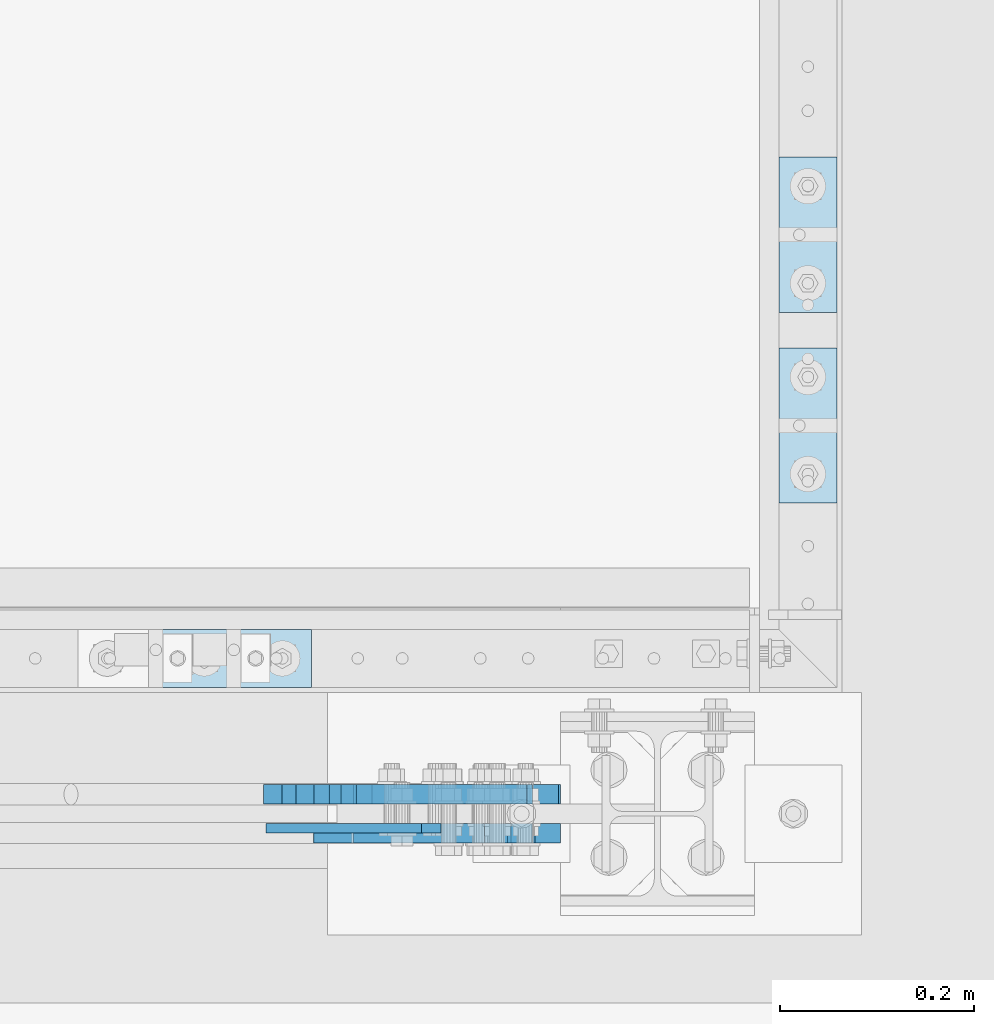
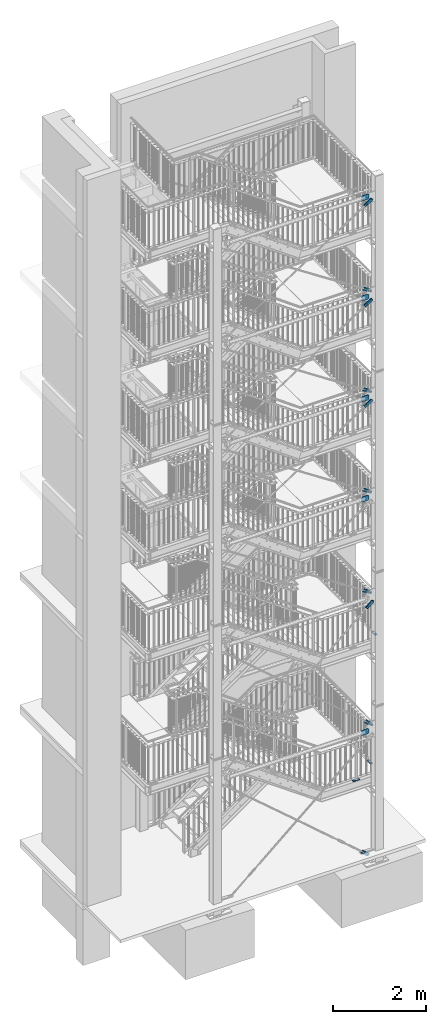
# One storey, part 195 of 825: 18 plates, 46 openings.
"""IFC2X3 building model written with IfcOpenShell, lengths in millimetres."""

import ifcopenshell
import ifcopenshell.guid

model = None  # the IFC model being written
_history = None  # IfcOwnerHistory: only IFC2X3 demands one
_inside = {}  # id of a spatial element -> (the spatial element, [elements in it])
_under = {}  # id of a project, library or spatial element -> (it, [spatial elements below it])
_declared = {}  # id of a project -> (the project, [libraries it declares])
_typed = {}  # id of a type object -> (the type object, [elements of that type])
_made_of = {}  # id of a material, layer set ... -> (it, [elements and type objects made of it])


def new_model(schema):
    """Start an empty IFC model of exactly this schema.

    Asked for "IFC4X3", IfcOpenShell would pick the latest addendum, in which some entities
    have other attributes; the version numbers below select the first issue.
    IFC2X3 requires an IfcOwnerHistory on every rooted entity: one is made here for all.
    """
    global model, _history
    if schema == "IFC4X3":
        model = ifcopenshell.file(schema_version=(4, 3, 0, 0))
    else:
        model = ifcopenshell.file(schema=schema)
    _inside.clear()
    _under.clear()
    _declared.clear()
    _typed.clear()
    _made_of.clear()
    _history = None
    if model.schema == "IFC2X3":
        org = make("IfcOrganization", Name="unknown")
        user = make(
            "IfcPersonAndOrganization",
            ThePerson=make("IfcPerson", FamilyName="unknown"),
            TheOrganization=org,
        )
        app = make(
            "IfcApplication",
            ApplicationDeveloper=org,
            Version="unknown",
            ApplicationFullName="unknown",
            ApplicationIdentifier="unknown",
        )
        _history = make(
            "IfcOwnerHistory",
            OwningUser=user,
            OwningApplication=app,
            ChangeAction="ADDED",
            CreationDate=0,
        )
    return model


def make(cls, **values):
    """One entity of the class cls with the attributes given. An attribute that is None is left unset."""
    return model.create_entity(
        cls, **{name: value for name, value in values.items() if value is not None}
    )


def entity(cls, *values):
    """Any entity or typed value of the class cls, its attributes in the order of the schema. None: left unset."""
    e = model.create_entity(cls)
    for i, value in enumerate(values):
        if value is not None:
            e[i] = value
    return e


def rooted(cls, **values):
    """An entity with a GlobalId (a new one), such as an element, a storey or a relation."""
    return make(cls, GlobalId=ifcopenshell.guid.new(), OwnerHistory=_history, **values)


def si_unit(unit_type, name, prefix=None):
    """IfcSIUnit, for example si_unit("LENGTHUNIT", "METRE", prefix="MILLI")."""
    return make("IfcSIUnit", UnitType=unit_type, Prefix=prefix, Name=name)


def converted_unit(unit_type, name, factor, base, dimensions=None, offset=None):
    """IfcConversionBasedUnit, such as the inch: factor (a typed value) times the base unit."""
    return make(
        "IfcConversionBasedUnit"
        if offset is None
        else "IfcConversionBasedUnitWithOffset",
        ConversionOffset=offset,
        Dimensions=None
        if dimensions is None
        else entity("IfcDimensionalExponents", *dimensions),
        UnitType=unit_type,
        Name=name,
        ConversionFactor=make(
            "IfcMeasureWithUnit", ValueComponent=factor, UnitComponent=base
        ),
    )


def assignment(units):
    """IfcUnitAssignment: the units of a project."""
    return None if units is None else make("IfcUnitAssignment", Units=units)


def point(xyz):
    """IfcCartesianPoint."""
    return None if xyz is None else make("IfcCartesianPoint", Coordinates=xyz)


def direction(xyz):
    """IfcDirection."""
    return None if xyz is None else make("IfcDirection", DirectionRatios=xyz)


def frame(location, z_axis=None, x_axis=None):
    """IfcAxis2Placement3D, a coordinate frame: its origin and axes. An axis left out is left unset."""
    return make(
        "IfcAxis2Placement3D",
        Location=point(location),
        Axis=direction(z_axis),
        RefDirection=direction(x_axis),
    )


def frame_2d(location, x_axis=None):
    """IfcAxis2Placement2D, a coordinate frame in the plane: its origin and x axis."""
    return make(
        "IfcAxis2Placement2D", Location=point(location), RefDirection=direction(x_axis)
    )


def origin():
    """The frame at (0, 0, 0) with its axes left unset."""
    return frame((0.0, 0.0, 0.0))


def origin_with_axes():
    """The frame at (0, 0, 0) with the z axis (0, 0, 1) and the x axis (1, 0, 0) written out."""
    return frame((0.0, 0.0, 0.0), z_axis=(0.0, 0.0, 1.0), x_axis=(1.0, 0.0, 0.0))


def place(relative_to, where):
    """IfcLocalPlacement: puts the frame where relative to a parent placement (None: the world)."""
    return make(
        "IfcLocalPlacement", PlacementRelTo=relative_to, RelativePlacement=where
    )


def context(
    kind, dimensions, precision=None, world=None, true_north=None, identifier=None
):
    """IfcGeometricRepresentationContext, for example the 3D "Model" context."""
    return make(
        "IfcGeometricRepresentationContext",
        ContextIdentifier=identifier,
        ContextType=kind,
        CoordinateSpaceDimension=dimensions,
        Precision=precision,
        WorldCoordinateSystem=world,
        TrueNorth=true_north,
    )


def project(units=None, contexts=None):
    """IfcProject with its units and contexts."""
    return rooted(
        "IfcProject",
        Name="project",
        RepresentationContexts=contexts,
        UnitsInContext=assignment(units),
    )


def spatial(cls, under=None, at=None, **own):
    """A site, building, storey or space (cls), placed at a placement, below another one or the project."""
    s = rooted(cls, ObjectPlacement=at, **own)
    if under is not None:
        _under.setdefault(under.id(), (under, []))[1].append(s)
    return s


def polyline(points):
    """IfcPolyline through the points."""
    return make("IfcPolyline", Points=[point(p) for p in points])


def circle_curve(where, radius):
    """IfcCircle in the frame where."""
    return make("IfcCircle", Position=where, Radius=radius)


def line_curve(start, along, magnitude):
    """IfcLine from a point along a vector."""
    return make(
        "IfcLine",
        Pnt=point(start),
        Dir=make("IfcVector", Orientation=direction(along), Magnitude=magnitude),
    )


def trimmed(basis, trim1, trim2, sense, master):
    """IfcTrimmedCurve: the piece of a basis curve between two trims."""
    return make(
        "IfcTrimmedCurve",
        BasisCurve=basis,
        Trim1=trim1,
        Trim2=trim2,
        SenseAgreement=sense,
        MasterRepresentation=master,
    )


def segment(curve, same_sense, transition):
    """IfcCompositeCurveSegment."""
    return make(
        "IfcCompositeCurveSegment",
        Transition=transition,
        SameSense=same_sense,
        ParentCurve=curve,
    )


def composite_curve(segments, self_intersect=None):
    """IfcCompositeCurve: segments joined end to end."""
    return make("IfcCompositeCurve", Segments=segments, SelfIntersect=self_intersect)


def profile(cls, at=None, kind="AREA", **sizes):
    """A parametric profile (cls). Its sizes go by their IFC names, for example OverallWidth=200.0."""
    return make(cls, ProfileType=kind, Position=at, **sizes)


def circle(**sizes):
    """IfcCircleProfileDef."""
    return profile("IfcCircleProfileDef", **sizes)


def outline(outer, holes=None, kind="AREA"):
    """IfcArbitraryClosedProfileDef: a profile drawn as a closed curve; with holes, ...WithVoids."""
    if holes is None:
        return make("IfcArbitraryClosedProfileDef", ProfileType=kind, OuterCurve=outer)
    return make(
        "IfcArbitraryProfileDefWithVoids",
        ProfileType=kind,
        OuterCurve=outer,
        InnerCurves=holes,
    )


def extrude(swept, where, along, depth):
    """IfcExtrudedAreaSolid: the profile swept, set in the frame where, extruded along a direction by depth."""
    return make(
        "IfcExtrudedAreaSolid",
        SweptArea=swept,
        Position=where,
        ExtrudedDirection=direction(along),
        Depth=depth,
    )


def shape(context_of_items, identifier, shape_type, items):
    """IfcShapeRepresentation: the items that make up one representation, for example the "Body"."""
    return make(
        "IfcShapeRepresentation",
        ContextOfItems=context_of_items,
        RepresentationIdentifier=identifier,
        RepresentationType=shape_type,
        Items=items,
    )


def material(Name=None, Category=None):
    """IfcMaterial."""
    return make("IfcMaterial", Name=Name, Category=Category)


def layer(
    of_material, thickness, ventilated=None, Name=None, Category=None, Priority=None
):
    """IfcMaterialLayer: one layer of a wall or slab, of a material (None: an air gap)."""
    return make(
        "IfcMaterialLayer",
        Material=of_material,
        LayerThickness=thickness,
        IsVentilated=ventilated,
        Name=Name,
        Category=Category,
        Priority=Priority,
    )


def layer_set(layers, Name=None):
    """IfcMaterialLayerSet."""
    return make("IfcMaterialLayerSet", MaterialLayers=layers, LayerSetName=Name)


def made_of(thing, what):
    """Note that an element or type object is made of a material, layer set ...; save() writes the relation."""
    if what is not None:
        _made_of.setdefault(what.id(), (what, []))[1].append(thing)
    return thing


def element(
    cls,
    number,
    at=None,
    inside=None,
    cuts=None,
    type_object=None,
    material=None,
    context=None,
    identifier="Body",
    shape_type=None,
    held_by="IfcProductDefinitionShape",
    body=None,
    shapes=None,
    **own,
):
    """One element of the class cls, such as IfcWall. Its Tag is "e" and its number.

    at: its placement. inside: the storey or other place that contains it. cuts: it is an
    opening in that element (IfcRelVoidsElement). A single representation is given by context,
    identifier, shape_type and body (its items); several are given by shapes. held_by: the class
    of the entity that holds the representations. save() writes the other relations.
    """
    e = rooted(cls, Tag="e%d" % number, ObjectPlacement=at, **own)
    if body is not None:
        shapes = [shape(context, identifier, shape_type, body)]
    if shapes is not None:
        e.Representation = make(held_by, Representations=shapes)
    if inside is not None:
        _inside.setdefault(inside.id(), (inside, []))[1].append(e)
    if cuts is not None:
        rooted(
            "IfcRelVoidsElement", RelatingBuildingElement=cuts, RelatedOpeningElement=e
        )
    if type_object is not None:
        _typed.setdefault(type_object.id(), (type_object, []))[1].append(e)
    return made_of(e, material)


def aggregate(whole, parts):
    """IfcRelAggregates: a whole, such as a stair, and the parts it consists of."""
    return rooted("IfcRelAggregates", RelatingObject=whole, RelatedObjects=parts)


def save(model, path):
    """Write the relations noted so far, then the file.

    IfcRelAggregates (storeys below a building ...), IfcRelContainedInSpatialStructure (elements
    in a storey), IfcRelDefinesByType, IfcRelAssociatesMaterial and IfcRelDeclares: one each for
    every whole, place, type object, material and project.
    """
    for whole, parts in _under.values():
        aggregate(whole, parts)
    for where, things in _inside.values():
        rooted(
            "IfcRelContainedInSpatialStructure",
            RelatedElements=things,
            RelatingStructure=where,
        )
    for kind, things in _typed.values():
        rooted("IfcRelDefinesByType", RelatedObjects=things, RelatingType=kind)
    for what, things in _made_of.values():
        rooted("IfcRelAssociatesMaterial", RelatedObjects=things, RelatingMaterial=what)
    for by, libraries in _declared.values():
        rooted("IfcRelDeclares", RelatingContext=by, RelatedDefinitions=libraries)
    model.write(path)


model = new_model("IFC2X3")

# Units and contexts
model_context = context("Model", 3, precision=1e-09, world=origin_with_axes())
ifc_project = project(units=[si_unit("LENGTHUNIT", "METRE", prefix="MILLI"), si_unit("AREAUNIT", "SQUARE_METRE"), si_unit("VOLUMEUNIT", "CUBIC_METRE"), converted_unit("PLANEANGLEUNIT", "DEGREE", entity("IfcPlaneAngleMeasure", 0.01745329), si_unit("PLANEANGLEUNIT", "RADIAN"), dimensions=[0, 0, 0, 0, 0, 0, 0])], contexts=[model_context])

# Site, building, storey
site_placement = place(None, origin_with_axes())
site = spatial("IfcSite", under=ifc_project, at=site_placement, Name="Cnopf'sche Kinderklinik", CompositionType="ELEMENT")
building_placement = place(site_placement, origin_with_axes())
building = spatial("IfcBuilding", under=site, at=building_placement, Name="Struktur 1", CompositionType="ELEMENT")
storey_placement = place(building_placement, origin_with_axes())
storey = spatial("IfcBuildingStorey", under=building, at=storey_placement, Name="Default Storey", CompositionType="ELEMENT", Elevation=0.0)

# Plate, openings
ifc_material = material(Name="S235JR")
ifc_layer_1 = layer(ifc_material, 20.0)
ifc_layer_set_1 = layer_set([ifc_layer_1], Name="S235JR")
plate_1_placement = place(None, frame((8586.91061946, 4356.736971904, 6728.115001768), z_axis=(0.0, -1.0, 0.0), x_axis=(0.654679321, 0.0, -0.755906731)))
plate_1 = element("IfcPlate", 1, at=plate_1_placement, inside=storey, material=ifc_layer_set_1, Name="-", ObjectType="-", context=model_context, shape_type="SweptSolid", body=[
    extrude(outline(polyline([(0.0, 0.0), (29.0, 0.0), (29.0, 210.0), (9.0, 230.0), (-31.0, 230.0), (-51.0, 210.0), (-51.0, 0.0), (-22.0, 0.0), (-22.0, 80.0), (0.0, 80.0), (0.0, 0.0)])), origin_with_axes(), (0.0, 0.0, 1.0), 20.0),
])
opening_1_placement = place(plate_1_placement, frame((-11.0, 170.0, -0.5), z_axis=(0.0, 0.0, 1.0), x_axis=(0.0, -1.0, 0.0)))
element("IfcOpeningElement", 2, at=opening_1_placement, cuts=plate_1, ObjectType="Opening", context=model_context, shape_type="SweptSolid", body=[
    extrude(circle(Radius=9.001, at=frame_2d((30.0, 0.0), x_axis=(1.0, 0.0))), origin(), (0.0, 0.0, 1.0), 21.0),
])
opening_2_placement = place(plate_1_placement, frame((-11.0, 170.0, -0.5), z_axis=(0.0, 0.0, 1.0), x_axis=(0.0, -1.0, 0.0)))
element("IfcOpeningElement", 3, at=opening_2_placement, cuts=plate_1, ObjectType="Opening", context=model_context, shape_type="SweptSolid", body=[
    extrude(circle(Radius=9.001, at=frame_2d((-30.0, 0.0), x_axis=(1.0, 0.0))), origin(), (0.0, 0.0, 1.0), 21.0),
])

plate_2_placement = place(None, frame((8494.057714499, 4396.736971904, 395.314271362), z_axis=(0.0, 1.0, 0.0), x_axis=(0.652408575, 0.0, 0.757867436)))
plate_2 = element("IfcPlate", 4, at=plate_2_placement, inside=storey, material=ifc_layer_set_1, Name="-", ObjectType="-", context=model_context, shape_type="SweptSolid", body=[
    extrude(outline(polyline([(0.0, 0.0), (29.0, 0.0), (29.0, 210.0), (9.0, 230.0), (-31.0, 230.0), (-51.0, 210.0), (-51.0, 0.0), (-22.0, 0.0), (-22.0, 80.0), (0.0, 80.0), (0.0, 0.0)])), origin_with_axes(), (0.0, 0.0, -1.0), 20.0),
])
opening_3_placement = place(plate_2_placement, frame((-11.000000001, 149.001, 0.5), z_axis=(0.0, 0.0, 1.0), x_axis=(1.0, 0.0, 0.0)))
element("IfcOpeningElement", 5, at=opening_3_placement, cuts=plate_2, ObjectType="Opening", context=model_context, shape_type="SweptSolid", body=[
    extrude(circle(Radius=9.001, at=frame_2d((0.0, -9.001), x_axis=(1.0, 0.0))), origin(), (0.0, 0.0, -1.0), 21.0),
])
opening_4_placement = place(plate_2_placement, frame((-11.000000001, 209.001, 0.5), z_axis=(0.0, 0.0, 1.0), x_axis=(1.0, 0.0, 0.0)))
element("IfcOpeningElement", 6, at=opening_4_placement, cuts=plate_2, ObjectType="Opening", context=model_context, shape_type="SweptSolid", body=[
    extrude(circle(Radius=9.001, at=frame_2d((0.0, -9.001), x_axis=(1.0, 0.0))), origin(), (0.0, 0.0, -1.0), 21.0),
])

plate_3_placement = place(None, frame((8587.050661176, 4396.736971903, 3768.76370292), z_axis=(0.0, 1.0, 0.0), x_axis=(0.654679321, 0.0, 0.755906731)))
plate_3 = element("IfcPlate", 7, at=plate_3_placement, inside=storey, material=ifc_layer_set_1, Name="-", ObjectType="-", context=model_context, shape_type="SweptSolid", body=[
    extrude(outline(polyline([(0.0, 0.0), (29.0, 0.0), (29.0, 210.0), (9.0, 230.0), (-31.0, 230.0), (-51.0, 210.0), (-51.0, 0.0), (-22.0, 0.0), (-22.0, 80.0), (0.0, 80.0), (0.0, 0.0)])), origin_with_axes(), (0.0, 0.0, -1.0), 20.0),
])
opening_5_placement = place(plate_3_placement, frame((-11.0, 149.001, 0.5), z_axis=(0.0, 0.0, 1.0), x_axis=(1.0, 0.0, 0.0)))
element("IfcOpeningElement", 8, at=opening_5_placement, cuts=plate_3, ObjectType="Opening", context=model_context, shape_type="SweptSolid", body=[
    extrude(circle(Radius=9.001, at=frame_2d((0.0, -9.001), x_axis=(1.0, 0.0))), origin(), (0.0, 0.0, -1.0), 21.0),
])
opening_6_placement = place(plate_3_placement, frame((-11.0, 209.001, 0.5), z_axis=(0.0, 0.0, 1.0), x_axis=(1.0, 0.0, 0.0)))
element("IfcOpeningElement", 9, at=opening_6_placement, cuts=plate_3, ObjectType="Opening", context=model_context, shape_type="SweptSolid", body=[
    extrude(circle(Radius=9.001, at=frame_2d((0.0, -9.001), x_axis=(1.0, 0.0))), origin(), (0.0, 0.0, -1.0), 21.0),
])

plate_4_placement = place(None, frame((8540.784171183, 4396.736971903, 7212.084413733), z_axis=(0.0, 1.0, 0.0), x_axis=(0.548720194, 0.0, 0.83600607)))
plate_4 = element("IfcPlate", 10, at=plate_4_placement, inside=storey, material=ifc_layer_set_1, Name="-", ObjectType="-", context=model_context, shape_type="SweptSolid", body=[
    extrude(outline(polyline([(0.0, 0.0), (29.0, 0.0), (29.0, 210.0), (9.0, 230.0), (-31.0, 230.0), (-51.0, 210.0), (-51.0, 0.0), (-22.0, 0.0), (-22.0, 80.0), (0.0, 80.0), (0.0, 0.0)])), origin_with_axes(), (0.0, 0.0, -1.0), 20.0),
])
opening_7_placement = place(plate_4_placement, frame((-11.0, 149.001, 0.5), z_axis=(0.0, 0.0, 1.0), x_axis=(1.0, 0.0, 0.0)))
element("IfcOpeningElement", 11, at=opening_7_placement, cuts=plate_4, ObjectType="Opening", context=model_context, shape_type="SweptSolid", body=[
    extrude(circle(Radius=9.001, at=frame_2d((0.0, -9.001), x_axis=(1.0, 0.0))), origin(), (0.0, 0.0, -1.0), 21.0),
])
opening_8_placement = place(plate_4_placement, frame((-10.999999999, 209.001, 0.5), z_axis=(0.0, 0.0, 1.0), x_axis=(1.0, 0.0, 0.0)))
element("IfcOpeningElement", 12, at=opening_8_placement, cuts=plate_4, ObjectType="Opening", context=model_context, shape_type="SweptSolid", body=[
    extrude(circle(Radius=9.001, at=frame_2d((0.0, -9.001), x_axis=(1.0, 0.0))), origin(), (0.0, 0.0, -1.0), 21.0),
])

plate_5_placement = place(None, frame((8540.615686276, 4396.736971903, 9843.845194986), z_axis=(0.0, 1.0, 0.0), x_axis=(0.547980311, 0.0, 0.836491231)))
plate_5 = element("IfcPlate", 13, at=plate_5_placement, inside=storey, material=ifc_layer_set_1, Name="-", ObjectType="-", context=model_context, shape_type="SweptSolid", body=[
    extrude(outline(polyline([(0.0, 0.0), (29.0, 0.0), (29.0, 210.0), (9.0, 230.0), (-31.0, 230.0), (-51.0, 210.0), (-51.0, 0.0), (-22.0, 0.0), (-22.0, 80.0), (0.0, 80.0), (0.0, 0.0)])), origin_with_axes(), (0.0, 0.0, -1.0), 20.0),
])
opening_9_placement = place(plate_5_placement, frame((-11.000000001, 149.001, 0.5), z_axis=(0.0, 0.0, 1.0), x_axis=(1.0, 0.0, 0.0)))
element("IfcOpeningElement", 14, at=opening_9_placement, cuts=plate_5, ObjectType="Opening", context=model_context, shape_type="SweptSolid", body=[
    extrude(circle(Radius=9.001, at=frame_2d((0.0, -9.001), x_axis=(1.0, 0.0))), origin(), (0.0, 0.0, -1.0), 21.0),
])
opening_10_placement = place(plate_5_placement, frame((-11.000000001, 209.001, 0.5), z_axis=(0.0, 0.0, 1.0), x_axis=(1.0, 0.0, 0.0)))
element("IfcOpeningElement", 15, at=opening_10_placement, cuts=plate_5, ObjectType="Opening", context=model_context, shape_type="SweptSolid", body=[
    extrude(circle(Radius=9.001, at=frame_2d((0.0, -9.001), x_axis=(1.0, 0.0))), origin(), (0.0, 0.0, -1.0), 21.0),
])

plate_6_placement = place(None, frame((8540.456629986, 4356.736971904, 12017.11491779), z_axis=(0.0, -1.0, 0.0), x_axis=(0.547991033, 0.0, -0.836484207)))
plate_6 = element("IfcPlate", 16, at=plate_6_placement, inside=storey, material=ifc_layer_set_1, Name="-", ObjectType="-", context=model_context, shape_type="SweptSolid", body=[
    extrude(outline(polyline([(0.0, 0.0), (29.0, 0.0), (29.0, 210.0), (9.0, 230.0), (-31.0, 230.0), (-51.0, 210.0), (-51.0, 0.0), (-22.0, 0.0), (-22.0, 80.0), (0.0, 80.0), (0.0, 0.0)])), origin_with_axes(), (0.0, 0.0, 1.0), 20.0),
])
opening_11_placement = place(plate_6_placement, frame((-11.0, 170.0, -0.5), z_axis=(0.0, 0.0, 1.0), x_axis=(0.0, -1.0, 0.0)))
element("IfcOpeningElement", 17, at=opening_11_placement, cuts=plate_6, ObjectType="Opening", context=model_context, shape_type="SweptSolid", body=[
    extrude(circle(Radius=9.001, at=frame_2d((30.0, 0.0), x_axis=(1.0, 0.0))), origin(), (0.0, 0.0, 1.0), 21.0),
])
opening_12_placement = place(plate_6_placement, frame((-11.0, 170.0, -0.5), z_axis=(0.0, 0.0, 1.0), x_axis=(0.0, -1.0, 0.0)))
element("IfcOpeningElement", 18, at=opening_12_placement, cuts=plate_6, ObjectType="Opening", context=model_context, shape_type="SweptSolid", body=[
    extrude(circle(Radius=9.001, at=frame_2d((-30.0, 0.0), x_axis=(1.0, 0.0))), origin(), (0.0, 0.0, 1.0), 21.0),
])

plate_7_placement = place(None, frame((8540.90280273, 4396.736971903, 12471.254814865), z_axis=(0.0, 1.0, 0.0), x_axis=(0.549157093, 0.0, 0.835719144)))
plate_7 = element("IfcPlate", 19, at=plate_7_placement, inside=storey, material=ifc_layer_set_1, Name="-", ObjectType="-", context=model_context, shape_type="SweptSolid", body=[
    extrude(outline(polyline([(0.0, 0.0), (29.0, 0.0), (29.0, 210.0), (9.0, 230.0), (-31.0, 230.0), (-51.0, 210.0), (-51.0, 0.0), (-22.0, 0.0), (-22.0, 80.0), (0.0, 80.0), (0.0, 0.0)])), origin_with_axes(), (0.0, 0.0, -1.0), 20.0),
])
opening_13_placement = place(plate_7_placement, frame((-11.0, 149.001, 0.5), z_axis=(0.0, 0.0, 1.0), x_axis=(1.0, 0.0, 0.0)))
element("IfcOpeningElement", 20, at=opening_13_placement, cuts=plate_7, ObjectType="Opening", context=model_context, shape_type="SweptSolid", body=[
    extrude(circle(Radius=9.001, at=frame_2d((0.0, -9.001), x_axis=(1.0, 0.0))), origin(), (0.0, 0.0, -1.0), 21.0),
])
opening_14_placement = place(plate_7_placement, frame((-11.0, 209.001, 0.5), z_axis=(0.0, 0.0, 1.0), x_axis=(1.0, 0.0, 0.0)))
element("IfcOpeningElement", 21, at=opening_14_placement, cuts=plate_7, ObjectType="Opening", context=model_context, shape_type="SweptSolid", body=[
    extrude(circle(Radius=9.001, at=frame_2d((0.0, -9.001), x_axis=(1.0, 0.0))), origin(), (0.0, 0.0, -1.0), 21.0),
])

plate_8_placement = place(None, frame((8540.77296569, 4356.736971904, 14651.659861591), z_axis=(0.0, -1.0, 0.0), x_axis=(0.549157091, 0.0, -0.835719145)))
plate_8 = element("IfcPlate", 22, at=plate_8_placement, inside=storey, material=ifc_layer_set_1, Name="-", ObjectType="-", context=model_context, shape_type="SweptSolid", body=[
    extrude(outline(polyline([(0.0, 0.0), (29.0, 0.0), (29.0, 210.0), (9.0, 230.0), (-31.0, 230.0), (-51.0, 210.0), (-51.0, 0.0), (-22.0, 0.0), (-22.0, 80.0), (0.0, 80.0), (0.0, 0.0)])), origin_with_axes(), (0.0, 0.0, 1.0), 20.0),
])
opening_15_placement = place(plate_8_placement, frame((-11.0, 170.0, -0.5), z_axis=(0.0, 0.0, 1.0), x_axis=(0.0, -1.0, 0.0)))
element("IfcOpeningElement", 23, at=opening_15_placement, cuts=plate_8, ObjectType="Opening", context=model_context, shape_type="SweptSolid", body=[
    extrude(circle(Radius=9.001, at=frame_2d((30.0, 0.0), x_axis=(1.0, 0.0))), origin(), (0.0, 0.0, 1.0), 21.0),
])
opening_16_placement = place(plate_8_placement, frame((-11.0, 170.0, -0.5), z_axis=(0.0, 0.0, 1.0), x_axis=(0.0, -1.0, 0.0)))
element("IfcOpeningElement", 24, at=opening_16_placement, cuts=plate_8, ObjectType="Opening", context=model_context, shape_type="SweptSolid", body=[
    extrude(circle(Radius=9.001, at=frame_2d((-30.0, 0.0), x_axis=(1.0, 0.0))), origin(), (0.0, 0.0, 1.0), 21.0),
])

plate_9_placement = place(None, frame((8540.309054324, 4396.736971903, 15105.40145562), z_axis=(0.0, 1.0, 0.0), x_axis=(0.546968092, 0.0, 0.837153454)))
plate_9 = element("IfcPlate", 25, at=plate_9_placement, inside=storey, material=ifc_layer_set_1, Name="-", ObjectType="-", context=model_context, shape_type="SweptSolid", body=[
    extrude(outline(polyline([(0.0, 0.0), (29.0, 0.0), (29.0, 210.0), (9.0, 230.0), (-31.0, 230.0), (-51.0, 210.0), (-51.0, 0.0), (-22.0, 0.0), (-22.0, 80.0), (0.0, 80.0), (0.0, 0.0)])), origin_with_axes(), (0.0, 0.0, -1.0), 20.0),
])
opening_17_placement = place(plate_9_placement, frame((-11.0, 149.001, 0.5), z_axis=(0.0, 0.0, 1.0), x_axis=(1.0, 0.0, 0.0)))
element("IfcOpeningElement", 26, at=opening_17_placement, cuts=plate_9, ObjectType="Opening", context=model_context, shape_type="SweptSolid", body=[
    extrude(circle(Radius=9.001, at=frame_2d((0.0, -9.001), x_axis=(1.0, 0.0))), origin(), (0.0, 0.0, -1.0), 21.0),
])
opening_18_placement = place(plate_9_placement, frame((-11.0, 209.001, 0.5), z_axis=(0.0, 0.0, 1.0), x_axis=(1.0, 0.0, 0.0)))
element("IfcOpeningElement", 27, at=opening_18_placement, cuts=plate_9, ObjectType="Opening", context=model_context, shape_type="SweptSolid", body=[
    extrude(circle(Radius=9.001, at=frame_2d((0.0, -9.001), x_axis=(1.0, 0.0))), origin(), (0.0, 0.0, -1.0), 21.0),
])

plate_10_placement = place(None, frame((8540.17951408, 4356.736971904, 17272.513899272), z_axis=(0.0, -1.0, 0.0), x_axis=(0.546968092, 0.0, -0.837153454)))
plate_10 = element("IfcPlate", 28, at=plate_10_placement, inside=storey, material=ifc_layer_set_1, Name="-", ObjectType="-", context=model_context, shape_type="SweptSolid", body=[
    extrude(outline(polyline([(0.0, 0.0), (29.0, 0.0), (29.0, 210.0), (9.0, 230.0), (-31.0, 230.0), (-51.0, 210.0), (-51.0, 0.0), (-22.0, 0.0), (-22.0, 80.0), (0.0, 80.0), (0.0, 0.0)])), origin_with_axes(), (0.0, 0.0, 1.0), 20.0),
])
opening_19_placement = place(plate_10_placement, frame((-11.0, 170.0, -0.5), z_axis=(0.0, 0.0, 1.0), x_axis=(0.0, -1.0, 0.0)))
element("IfcOpeningElement", 29, at=opening_19_placement, cuts=plate_10, ObjectType="Opening", context=model_context, shape_type="SweptSolid", body=[
    extrude(circle(Radius=9.001, at=frame_2d((30.0, 0.0), x_axis=(1.0, 0.0))), origin(), (0.0, 0.0, 1.0), 21.0),
])
opening_20_placement = place(plate_10_placement, frame((-11.0, 170.0, -0.5), z_axis=(0.0, 0.0, 1.0), x_axis=(0.0, -1.0, 0.0)))
element("IfcOpeningElement", 30, at=opening_20_placement, cuts=plate_10, ObjectType="Opening", context=model_context, shape_type="SweptSolid", body=[
    extrude(circle(Radius=9.001, at=frame_2d((-30.0, 0.0), x_axis=(1.0, 0.0))), origin(), (0.0, 0.0, 1.0), 21.0),
])

ifc_layer_2 = layer(ifc_material, 10.0)
ifc_layer_set_2 = layer_set([ifc_layer_2], Name="S235JR")
plate_11_placement = place(None, frame((8553.463402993, 4356.736971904, 3511.999996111), z_axis=(0.0, -1.0, 0.0), x_axis=(1.0, 0.0, 0.0)))
plate_11 = element("IfcPlate", 31, at=plate_11_placement, inside=storey, material=ifc_layer_set_2, Name="-", ObjectType="-", context=model_context, shape_type="SweptSolid", body=[
    extrude(outline(polyline([(-90.0, -70.0), (90.0, -70.0), (90.0, 70.0), (-90.0, 70.0), (-90.0, -70.0)])), origin_with_axes(), (0.0, 0.0, 1.0), 10.0),
])
opening_21_placement = place(plate_11_placement, frame((0.0, 0.0, -0.01), z_axis=(0.0, 0.0, 1.0), x_axis=(1.0, 0.0, 0.0)))
element("IfcOpeningElement", 32, at=opening_21_placement, cuts=plate_11, ObjectType="Opening", context=model_context, shape_type="SweptSolid", body=[
    extrude(outline(polyline([(90.0, -70.0), (90.0, -50.0), (70.0, -70.0), (90.0, -70.0)])), origin(), (0.0, 0.0, 1.0), 10.02),
])
opening_22_placement = place(plate_11_placement, frame((0.0, 0.0, -0.01), z_axis=(0.0, 0.0, 1.0), x_axis=(1.0, 0.0, 0.0)))
element("IfcOpeningElement", 33, at=opening_22_placement, cuts=plate_11, ObjectType="Opening", context=model_context, shape_type="SweptSolid", body=[
    extrude(outline(polyline([(90.0, 70.0), (70.0, 70.0), (90.0, 50.0), (90.0, 70.0)])), origin(), (0.0, 0.0, 1.0), 10.02),
])
opening_23_placement = place(plate_11_placement, frame((50.0, 0.0, -0.5), z_axis=(0.0, 0.0, 1.0), x_axis=(1.0, 0.0, 0.0)))
element("IfcOpeningElement", 34, at=opening_23_placement, cuts=plate_11, ObjectType="Opening", context=model_context, shape_type="SweptSolid", body=[
    extrude(circle(Radius=9.001, at=frame_2d((0.0, 30.0), x_axis=(1.0, 0.0))), origin(), (0.0, 0.0, 1.0), 11.0),
])
opening_24_placement = place(plate_11_placement, frame((50.0, 0.0, -0.5), z_axis=(0.0, 0.0, 1.0), x_axis=(1.0, 0.0, 0.0)))
element("IfcOpeningElement", 35, at=opening_24_placement, cuts=plate_11, ObjectType="Opening", context=model_context, shape_type="SweptSolid", body=[
    extrude(circle(Radius=9.001, at=frame_2d((0.0, -30.0), x_axis=(1.0, 0.0))), origin(), (0.0, 0.0, 1.0), 11.0),
])

plate_12_placement = place(None, frame((8553.463402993, 4356.736971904, 9616.999996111), z_axis=(0.0, -1.0, 0.0), x_axis=(1.0, 0.0, 0.0)))
plate_12 = element("IfcPlate", 36, at=plate_12_placement, inside=storey, material=ifc_layer_set_2, Name="-", ObjectType="-", context=model_context, shape_type="SweptSolid", body=[
    extrude(outline(polyline([(-90.0, -70.0), (90.0, -70.0), (90.0, 70.0), (-90.0, 70.0), (-90.0, -70.0)])), origin_with_axes(), (0.0, 0.0, 1.0), 10.0),
])
opening_25_placement = place(plate_12_placement, frame((0.0, 0.0, -0.01), z_axis=(0.0, 0.0, 1.0), x_axis=(1.0, 0.0, 0.0)))
element("IfcOpeningElement", 37, at=opening_25_placement, cuts=plate_12, ObjectType="Opening", context=model_context, shape_type="SweptSolid", body=[
    extrude(outline(polyline([(90.0, -70.0), (90.0, -50.0), (70.0, -70.0), (90.0, -70.0)])), origin(), (0.0, 0.0, 1.0), 10.02),
])
opening_26_placement = place(plate_12_placement, frame((0.0, 0.0, -0.01), z_axis=(0.0, 0.0, 1.0), x_axis=(1.0, 0.0, 0.0)))
element("IfcOpeningElement", 38, at=opening_26_placement, cuts=plate_12, ObjectType="Opening", context=model_context, shape_type="SweptSolid", body=[
    extrude(outline(polyline([(90.0, 70.0), (70.0, 70.0), (90.0, 50.0), (90.0, 70.0)])), origin(), (0.0, 0.0, 1.0), 10.02),
])
opening_27_placement = place(plate_12_placement, frame((50.0, 0.0, -0.5), z_axis=(0.0, 0.0, 1.0), x_axis=(1.0, 0.0, 0.0)))
element("IfcOpeningElement", 39, at=opening_27_placement, cuts=plate_12, ObjectType="Opening", context=model_context, shape_type="SweptSolid", body=[
    extrude(circle(Radius=9.001, at=frame_2d((0.0, 30.0), x_axis=(1.0, 0.0))), origin(), (0.0, 0.0, 1.0), 11.0),
])
opening_28_placement = place(plate_12_placement, frame((50.0, 0.0, -0.5), z_axis=(0.0, 0.0, 1.0), x_axis=(1.0, 0.0, 0.0)))
element("IfcOpeningElement", 40, at=opening_28_placement, cuts=plate_12, ObjectType="Opening", context=model_context, shape_type="SweptSolid", body=[
    extrude(circle(Radius=9.001, at=frame_2d((0.0, -30.0), x_axis=(1.0, 0.0))), origin(), (0.0, 0.0, 1.0), 11.0),
])

plate_13_placement = place(None, frame((8553.463402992, 4356.736971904, 12243.999996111), z_axis=(0.0, -1.0, 0.0), x_axis=(1.0, 0.0, 0.0)))
plate_13 = element("IfcPlate", 41, at=plate_13_placement, inside=storey, material=ifc_layer_set_2, Name="-", ObjectType="-", context=model_context, shape_type="SweptSolid", body=[
    extrude(outline(polyline([(-90.0, -70.0), (90.0, -70.0), (90.0, 70.0), (-90.0, 70.0), (-90.0, -70.0)])), origin_with_axes(), (0.0, 0.0, 1.0), 10.0),
])
opening_29_placement = place(plate_13_placement, frame((0.0, 0.0, -0.01), z_axis=(0.0, 0.0, 1.0), x_axis=(1.0, 0.0, 0.0)))
element("IfcOpeningElement", 42, at=opening_29_placement, cuts=plate_13, ObjectType="Opening", context=model_context, shape_type="SweptSolid", body=[
    extrude(outline(polyline([(90.0, -70.0), (90.0, -50.0), (70.0, -70.0), (90.0, -70.0)])), origin(), (0.0, 0.0, 1.0), 10.02),
])
opening_30_placement = place(plate_13_placement, frame((0.0, 0.0, -0.01), z_axis=(0.0, 0.0, 1.0), x_axis=(1.0, 0.0, 0.0)))
element("IfcOpeningElement", 43, at=opening_30_placement, cuts=plate_13, ObjectType="Opening", context=model_context, shape_type="SweptSolid", body=[
    extrude(outline(polyline([(90.0, 70.0), (70.0, 70.0), (90.0, 50.0), (90.0, 70.0)])), origin(), (0.0, 0.0, 1.0), 10.02),
])
opening_31_placement = place(plate_13_placement, frame((50.0, 0.0, -0.5), z_axis=(0.0, 0.0, 1.0), x_axis=(1.0, 0.0, 0.0)))
element("IfcOpeningElement", 44, at=opening_31_placement, cuts=plate_13, ObjectType="Opening", context=model_context, shape_type="SweptSolid", body=[
    extrude(circle(Radius=9.001, at=frame_2d((0.0, 30.0), x_axis=(1.0, 0.0))), origin(), (0.0, 0.0, 1.0), 11.0),
])
opening_32_placement = place(plate_13_placement, frame((50.0, 0.0, -0.5), z_axis=(0.0, 0.0, 1.0), x_axis=(1.0, 0.0, 0.0)))
element("IfcOpeningElement", 45, at=opening_32_placement, cuts=plate_13, ObjectType="Opening", context=model_context, shape_type="SweptSolid", body=[
    extrude(circle(Radius=9.001, at=frame_2d((0.0, -30.0), x_axis=(1.0, 0.0))), origin(), (0.0, 0.0, 1.0), 11.0),
])

plate_14_placement = place(None, frame((8553.463402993, 4356.736971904, 14878.999996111), z_axis=(0.0, -1.0, 0.0), x_axis=(1.0, 0.0, 0.0)))
plate_14 = element("IfcPlate", 46, at=plate_14_placement, inside=storey, material=ifc_layer_set_2, Name="-", ObjectType="-", context=model_context, shape_type="SweptSolid", body=[
    extrude(outline(polyline([(-90.0, -70.0), (90.0, -70.0), (90.0, 70.0), (-90.0, 70.0), (-90.0, -70.0)])), origin_with_axes(), (0.0, 0.0, 1.0), 10.0),
])
opening_33_placement = place(plate_14_placement, frame((0.0, 0.0, -0.01), z_axis=(0.0, 0.0, 1.0), x_axis=(1.0, 0.0, 0.0)))
element("IfcOpeningElement", 47, at=opening_33_placement, cuts=plate_14, ObjectType="Opening", context=model_context, shape_type="SweptSolid", body=[
    extrude(outline(polyline([(90.0, -70.0), (90.0, -50.0), (70.0, -70.0), (90.0, -70.0)])), origin(), (0.0, 0.0, 1.0), 10.02),
])
opening_34_placement = place(plate_14_placement, frame((0.0, 0.0, -0.01), z_axis=(0.0, 0.0, 1.0), x_axis=(1.0, 0.0, 0.0)))
element("IfcOpeningElement", 48, at=opening_34_placement, cuts=plate_14, ObjectType="Opening", context=model_context, shape_type="SweptSolid", body=[
    extrude(outline(polyline([(90.0, 70.0), (70.0, 70.0), (90.0, 50.0), (90.0, 70.0)])), origin(), (0.0, 0.0, 1.0), 10.02),
])
opening_35_placement = place(plate_14_placement, frame((50.0, 0.0, -0.5), z_axis=(0.0, 0.0, 1.0), x_axis=(1.0, 0.0, 0.0)))
element("IfcOpeningElement", 49, at=opening_35_placement, cuts=plate_14, ObjectType="Opening", context=model_context, shape_type="SweptSolid", body=[
    extrude(circle(Radius=9.001, at=frame_2d((0.0, 30.0), x_axis=(1.0, 0.0))), origin(), (0.0, 0.0, 1.0), 11.0),
])
opening_36_placement = place(plate_14_placement, frame((50.0, 0.0, -0.5), z_axis=(0.0, 0.0, 1.0), x_axis=(1.0, 0.0, 0.0)))
element("IfcOpeningElement", 50, at=opening_36_placement, cuts=plate_14, ObjectType="Opening", context=model_context, shape_type="SweptSolid", body=[
    extrude(circle(Radius=9.001, at=frame_2d((0.0, -30.0), x_axis=(1.0, 0.0))), origin(), (0.0, 0.0, 1.0), 11.0),
])

plate_15_placement = place(None, frame((8553.463402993, 4356.736971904, 17498.999996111), z_axis=(0.0, -1.0, 0.0), x_axis=(1.0, 0.0, 0.0)))
plate_15 = element("IfcPlate", 51, at=plate_15_placement, inside=storey, material=ifc_layer_set_2, Name="-", ObjectType="-", context=model_context, shape_type="SweptSolid", body=[
    extrude(outline(polyline([(-90.0, -70.0), (90.0, -70.0), (90.0, 70.0), (-90.0, 70.0), (-90.0, -70.0)])), origin_with_axes(), (0.0, 0.0, 1.0), 10.0),
])
opening_37_placement = place(plate_15_placement, frame((0.0, 0.0, -0.01), z_axis=(0.0, 0.0, 1.0), x_axis=(1.0, 0.0, 0.0)))
element("IfcOpeningElement", 52, at=opening_37_placement, cuts=plate_15, ObjectType="Opening", context=model_context, shape_type="SweptSolid", body=[
    extrude(outline(polyline([(90.0, -70.0), (90.0, -50.0), (70.0, -70.0), (90.0, -70.0)])), origin(), (0.0, 0.0, 1.0), 10.02),
])
opening_38_placement = place(plate_15_placement, frame((0.0, 0.0, -0.01), z_axis=(0.0, 0.0, 1.0), x_axis=(1.0, 0.0, 0.0)))
element("IfcOpeningElement", 53, at=opening_38_placement, cuts=plate_15, ObjectType="Opening", context=model_context, shape_type="SweptSolid", body=[
    extrude(outline(polyline([(90.0, 70.0), (70.0, 70.0), (90.0, 50.0), (90.0, 70.0)])), origin(), (0.0, 0.0, 1.0), 10.02),
])
opening_39_placement = place(plate_15_placement, frame((50.0, 0.0, -0.5), z_axis=(0.0, 0.0, 1.0), x_axis=(1.0, 0.0, 0.0)))
element("IfcOpeningElement", 54, at=opening_39_placement, cuts=plate_15, ObjectType="Opening", context=model_context, shape_type="SweptSolid", body=[
    extrude(circle(Radius=9.001, at=frame_2d((0.0, 30.0), x_axis=(1.0, 0.0))), origin(), (0.0, 0.0, 1.0), 11.0),
])
opening_40_placement = place(plate_15_placement, frame((50.0, 0.0, -0.5), z_axis=(0.0, 0.0, 1.0), x_axis=(1.0, 0.0, 0.0)))
element("IfcOpeningElement", 55, at=opening_40_placement, cuts=plate_15, ObjectType="Opening", context=model_context, shape_type="SweptSolid", body=[
    extrude(circle(Radius=9.001, at=frame_2d((0.0, -30.0), x_axis=(1.0, 0.0))), origin(), (0.0, 0.0, 1.0), 11.0),
])

plate_16_placement = place(None, frame((9051.713402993, 4883.274795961, 2181.0526312), z_axis=(0.0, 0.0, 1.0), x_axis=(0.0, 1.0, 0.0)))
plate_16 = element("IfcPlate", 56, at=plate_16_placement, inside=storey, material=ifc_layer_set_1, Name="Plate#506", ObjectType="Plate#506", context=model_context, shape_type="SweptSolid", body=[
    extrude(outline(polyline([(0.0, 0.0), (160.0, 0.0), (160.0, 60.0), (0.0, 60.0), (0.0, 0.0)])), origin_with_axes(), (0.0, 0.0, 1.0), 20.0),
])
opening_41_placement = place(plate_16_placement, frame((38.0, 37.001, 20.5), z_axis=(0.0, 0.0, 1.0), x_axis=(-1.0, 0.0, 0.0)))
element("IfcOpeningElement", 57, at=opening_41_placement, cuts=plate_16, ObjectType="Opening", context=model_context, shape_type="SweptSolid", body=[
    extrude(outline(composite_curve([segment(trimmed(line_curve((0.0, 0.0), (1.0, 0.0), 16.0), [point((0.0, 0.0))], [point((16.0, 0.0))], True, "CARTESIAN"), True, "CONTINUOUS"), segment(trimmed(circle_curve(frame_2d((16.0, 7.001), x_axis=(1.0, 0.0)), 7.001), [point((16.0, 0.0))], [point((16.0, 14.002))], True, "CARTESIAN"), True, "CONTINUOUS"), segment(trimmed(line_curve((16.0, 14.002), (-1.0, 0.0), 16.0), [point((16.0, 14.002))], [point((0.0, 14.002))], True, "CARTESIAN"), True, "CONTINUOUS"), segment(trimmed(circle_curve(frame_2d((0.0, 7.001), x_axis=(1.0, 0.0)), 7.001), [point((0.0, 14.002))], [point((0.0, 0.0))], True, "CARTESIAN"), True, "CONTINUOUS")], self_intersect=False)), origin(), (0.0, 0.0, -1.0), 21.0),
])
opening_42_placement = place(plate_16_placement, frame((138.0, 37.001, 20.5), z_axis=(0.0, 0.0, 1.0), x_axis=(-1.0, 0.0, 0.0)))
element("IfcOpeningElement", 58, at=opening_42_placement, cuts=plate_16, ObjectType="Opening", context=model_context, shape_type="SweptSolid", body=[
    extrude(outline(composite_curve([segment(trimmed(line_curve((0.0, 0.0), (1.0, 0.0), 16.0), [point((0.0, 0.0))], [point((16.0, 0.0))], True, "CARTESIAN"), True, "CONTINUOUS"), segment(trimmed(circle_curve(frame_2d((16.0, 7.001), x_axis=(1.0, 0.0)), 7.001), [point((16.0, 0.0))], [point((16.0, 14.002))], True, "CARTESIAN"), True, "CONTINUOUS"), segment(trimmed(line_curve((16.0, 14.002), (-1.0, 0.0), 16.0), [point((16.0, 14.002))], [point((0.0, 14.002))], True, "CARTESIAN"), True, "CONTINUOUS"), segment(trimmed(circle_curve(frame_2d((0.0, 7.001), x_axis=(1.0, 0.0)), 7.001), [point((0.0, 14.002))], [point((0.0, 0.0))], True, "CARTESIAN"), True, "CONTINUOUS")], self_intersect=False)), origin(), (0.0, 0.0, -1.0), 21.0),
])

plate_17_placement = place(None, frame((8350.174109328, 4496.736971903, 2181.0526312), z_axis=(0.0, 0.0, 1.0), x_axis=(1.0, 0.0, 0.0)))
plate_17 = element("IfcPlate", 59, at=plate_17_placement, inside=storey, material=ifc_layer_set_1, Name="Plate#507", ObjectType="Plate#507", context=model_context, shape_type="SweptSolid", body=[
    extrude(outline(polyline([(0.0, 0.0), (160.0, 0.0), (160.0, 60.0), (0.0, 60.0), (0.0, 0.0)])), origin_with_axes(), (0.0, 0.0, 1.0), 20.0),
])
opening_43_placement = place(plate_17_placement, frame((38.0, 37.001, 20.5), z_axis=(0.0, 0.0, 1.0), x_axis=(-1.0, 0.0, 0.0)))
element("IfcOpeningElement", 60, at=opening_43_placement, cuts=plate_17, ObjectType="Opening", context=model_context, shape_type="SweptSolid", body=[
    extrude(outline(composite_curve([segment(trimmed(line_curve((0.0, 0.0), (1.0, 0.0), 16.0), [point((0.0, 0.0))], [point((16.0, 0.0))], True, "CARTESIAN"), True, "CONTINUOUS"), segment(trimmed(circle_curve(frame_2d((16.0, 7.001), x_axis=(1.0, 0.0)), 7.001), [point((16.0, 0.0))], [point((16.0, 14.002))], True, "CARTESIAN"), True, "CONTINUOUS"), segment(trimmed(line_curve((16.0, 14.002), (-1.0, 0.0), 16.0), [point((16.0, 14.002))], [point((0.0, 14.002))], True, "CARTESIAN"), True, "CONTINUOUS"), segment(trimmed(circle_curve(frame_2d((0.0, 7.001), x_axis=(1.0, 0.0)), 7.001), [point((0.0, 14.002))], [point((0.0, 0.0))], True, "CARTESIAN"), True, "CONTINUOUS")], self_intersect=False)), origin(), (0.0, 0.0, -1.0), 21.0),
])
opening_44_placement = place(plate_17_placement, frame((138.0, 37.001, 20.5), z_axis=(0.0, 0.0, 1.0), x_axis=(-1.0, 0.0, 0.0)))
element("IfcOpeningElement", 61, at=opening_44_placement, cuts=plate_17, ObjectType="Opening", context=model_context, shape_type="SweptSolid", body=[
    extrude(outline(composite_curve([segment(trimmed(line_curve((0.0, 0.0), (1.0, 0.0), 16.0), [point((0.0, 0.0))], [point((16.0, 0.0))], True, "CARTESIAN"), True, "CONTINUOUS"), segment(trimmed(circle_curve(frame_2d((16.0, 7.001), x_axis=(1.0, 0.0)), 7.001), [point((16.0, 0.0))], [point((16.0, 14.002))], True, "CARTESIAN"), True, "CONTINUOUS"), segment(trimmed(line_curve((16.0, 14.002), (-1.0, 0.0), 16.0), [point((16.0, 14.002))], [point((0.0, 14.002))], True, "CARTESIAN"), True, "CONTINUOUS"), segment(trimmed(circle_curve(frame_2d((0.0, 7.001), x_axis=(1.0, 0.0)), 7.001), [point((0.0, 14.002))], [point((0.0, 0.0))], True, "CARTESIAN"), True, "CONTINUOUS")], self_intersect=False)), origin(), (0.0, 0.0, -1.0), 21.0),
])

plate_18_placement = place(None, frame((9051.713402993, 4686.735971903, 5674.8947367), z_axis=(0.0, 0.0, 1.0), x_axis=(0.0, 1.0, 0.0)))
plate_18 = element("IfcPlate", 62, at=plate_18_placement, inside=storey, material=ifc_layer_set_1, Name="Plate#507", ObjectType="Plate#507", context=model_context, shape_type="SweptSolid", body=[
    extrude(outline(polyline([(0.0, 0.0), (160.0, 0.0), (160.0, 60.0), (0.0, 60.0), (0.0, 0.0)])), origin_with_axes(), (0.0, 0.0, 1.0), 20.0),
])
opening_45_placement = place(plate_18_placement, frame((38.0, 37.001, 20.5), z_axis=(0.0, 0.0, 1.0), x_axis=(-1.0, 0.0, 0.0)))
element("IfcOpeningElement", 63, at=opening_45_placement, cuts=plate_18, ObjectType="Opening", context=model_context, shape_type="SweptSolid", body=[
    extrude(outline(composite_curve([segment(trimmed(line_curve((0.0, 0.0), (1.0, 0.0), 16.0), [point((0.0, 0.0))], [point((16.0, 0.0))], True, "CARTESIAN"), True, "CONTINUOUS"), segment(trimmed(circle_curve(frame_2d((16.0, 7.001), x_axis=(1.0, 0.0)), 7.001), [point((16.0, 0.0))], [point((16.0, 14.002))], True, "CARTESIAN"), True, "CONTINUOUS"), segment(trimmed(line_curve((16.0, 14.002), (-1.0, 0.0), 16.0), [point((16.0, 14.002))], [point((0.0, 14.002))], True, "CARTESIAN"), True, "CONTINUOUS"), segment(trimmed(circle_curve(frame_2d((0.0, 7.001), x_axis=(1.0, 0.0)), 7.001), [point((0.0, 14.002))], [point((0.0, 0.0))], True, "CARTESIAN"), True, "CONTINUOUS")], self_intersect=False)), origin(), (0.0, 0.0, -1.0), 21.0),
])
opening_46_placement = place(plate_18_placement, frame((138.0, 37.001, 20.5), z_axis=(0.0, 0.0, 1.0), x_axis=(-1.0, 0.0, 0.0)))
element("IfcOpeningElement", 64, at=opening_46_placement, cuts=plate_18, ObjectType="Opening", context=model_context, shape_type="SweptSolid", body=[
    extrude(outline(composite_curve([segment(trimmed(line_curve((0.0, 0.0), (1.0, 0.0), 16.0), [point((0.0, 0.0))], [point((16.0, 0.0))], True, "CARTESIAN"), True, "CONTINUOUS"), segment(trimmed(circle_curve(frame_2d((16.0, 7.001), x_axis=(1.0, 0.0)), 7.001), [point((16.0, 0.0))], [point((16.0, 14.002))], True, "CARTESIAN"), True, "CONTINUOUS"), segment(trimmed(line_curve((16.0, 14.002), (-1.0, 0.0), 16.0), [point((16.0, 14.002))], [point((0.0, 14.002))], True, "CARTESIAN"), True, "CONTINUOUS"), segment(trimmed(circle_curve(frame_2d((0.0, 7.001), x_axis=(1.0, 0.0)), 7.001), [point((0.0, 14.002))], [point((0.0, 0.0))], True, "CARTESIAN"), True, "CONTINUOUS")], self_intersect=False)), origin(), (0.0, 0.0, -1.0), 21.0),
])

save(model, "model.ifc")
